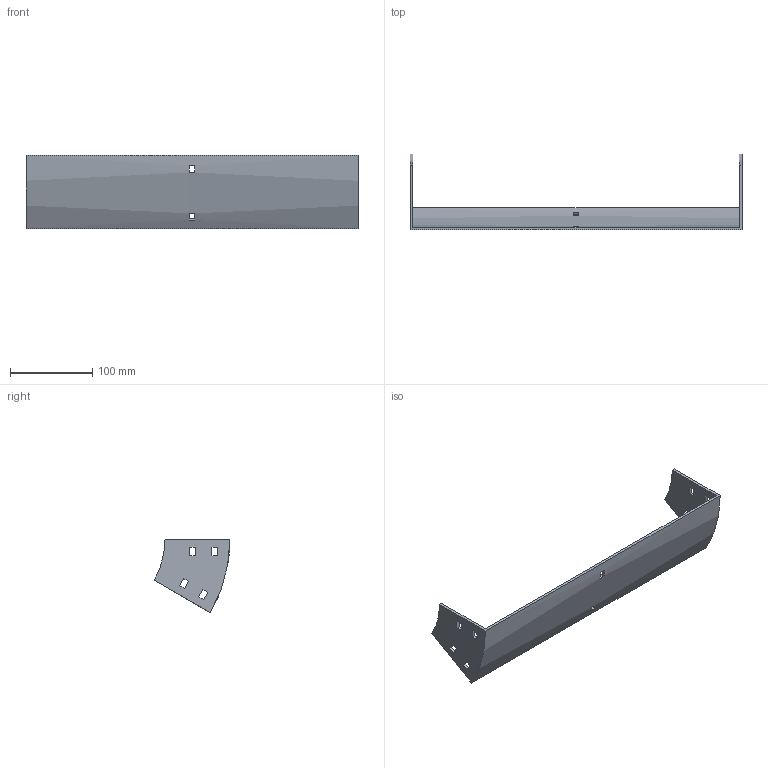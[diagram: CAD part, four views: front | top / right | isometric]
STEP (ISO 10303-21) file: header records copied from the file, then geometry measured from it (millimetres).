
FILE_DESCRIPTION (( 'STEP AP214' ), '1' );
FILE_NAME ('32B1C400.step', '2025-02-21T09:44:52', ( '' ), ( '' ), 'SwSTEP 2.0', 'SolidWorks 2023', '' );
FILE_SCHEMA (( 'AUTOMOTIVE_DESIGN' ));
Length unit declared in the file: millimetre
Products named in the file (1): 32B1C400
Bounding box: 404 x 92.4 x 89.5 mm (x, y, z)
Volume: 166977.5 mm3; surface area: 100843.6 mm2
Topology: 1 solids, 1 shells, 50 faces, 144 edges, 96 vertices
Faces by surface type: plane 46, cylinder 4
Entity records: 1687 total; most frequent: CARTESIAN_POINT 291, ORIENTED_EDGE 288, DIRECTION 262, EDGE_CURVE 144, VECTOR 128, LINE 128, VERTEX_POINT 96, EDGE_LOOP 70
